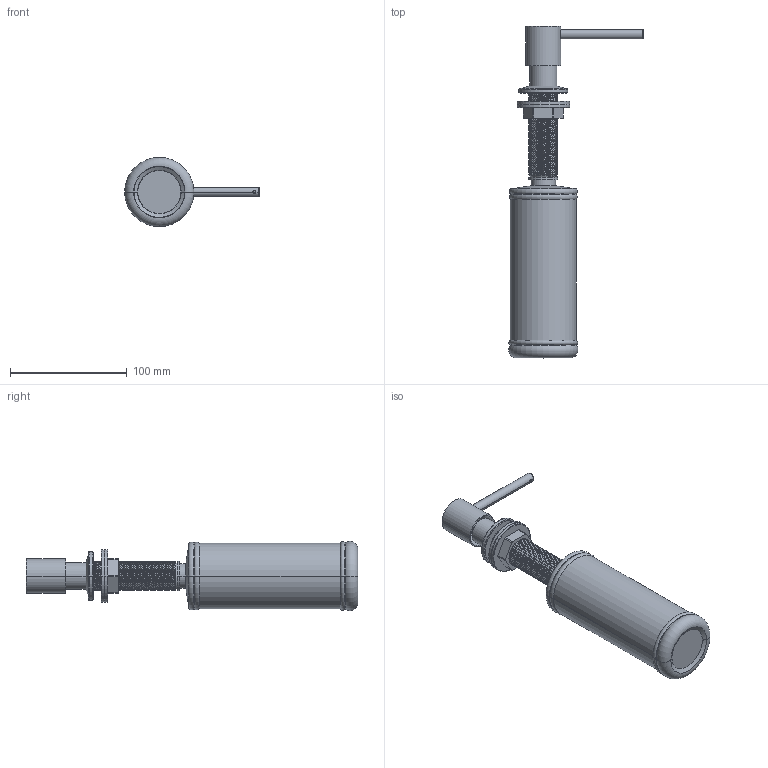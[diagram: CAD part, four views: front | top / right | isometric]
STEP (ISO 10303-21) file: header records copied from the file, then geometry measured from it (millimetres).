
FILE_DESCRIPTION((''),'2;1');
FILE_NAME('PT-SD02_ASM','2023-11-28T20:47:13',('GL-JISHU1'),(''),'CREO PARAMETRIC BY PTC INC, 2021063','CREO PARAMETRIC BY PTC INC, 2021063','');
FILE_SCHEMA(('AUTOMOTIVE_DESIGN { 1 0 10303 214 1 1 1 1 }'));
Length unit declared in the file: millimetre
Products named in the file (20): 26L010NT_1; 26V004NT_1; 26T002NT_1; 26J016NT_1; 26L011NT_1; 26B097NT_2; 26J011NT_1; 26J014NT_3; 26B045NT_1; 26L049NT_3; 26J019NT_1; 26G009NT_1; 26V051NT_2; 26J049NT_1; 26B072NT_2; 26T004NT_1; 26B019NT_2; 26J048NT_2; 26J008NT_1; PT-SD02_ASM
Assembly tree (21 placements, depth 2):
  PT-SD02_ASM
    26L010NT_1
    26V004NT_1  x2
    26T002NT_1
    26J016NT_1
    26L011NT_1
    26B097NT_2
    26J011NT_1
    26J014NT_3
    26B045NT_1
    26L049NT_3
    26J019NT_1
    26G009NT_1
    26V051NT_2
    26J049NT_1
    26B072NT_2
    26T004NT_1
    26B019NT_2
    26J048NT_2
    26J008NT_1  x2
Bounding box: 115.36 x 284.57 x 59.33 mm (x, y, z)
Volume: 67745.1 mm3; surface area: 127898.7 mm2
Topology: 21 solids, 21 shells, 707 faces, 1901 edges, 1247 vertices
Faces by surface type: cylinder 334, plane 124, bspline 101, cone 70, torus 70, sphere 8
Entity records: 55294 total; most frequent: CARTESIAN_POINT 35630, ORIENTED_EDGE 3746, DIRECTION 3374, EDGE_CURVE 1873, AXIS2_PLACEMENT_3D 1360, VERTEX_POINT 1237, EDGE_LOOP 756, B_SPLINE_CURVE_WITH_KNOTS 701
